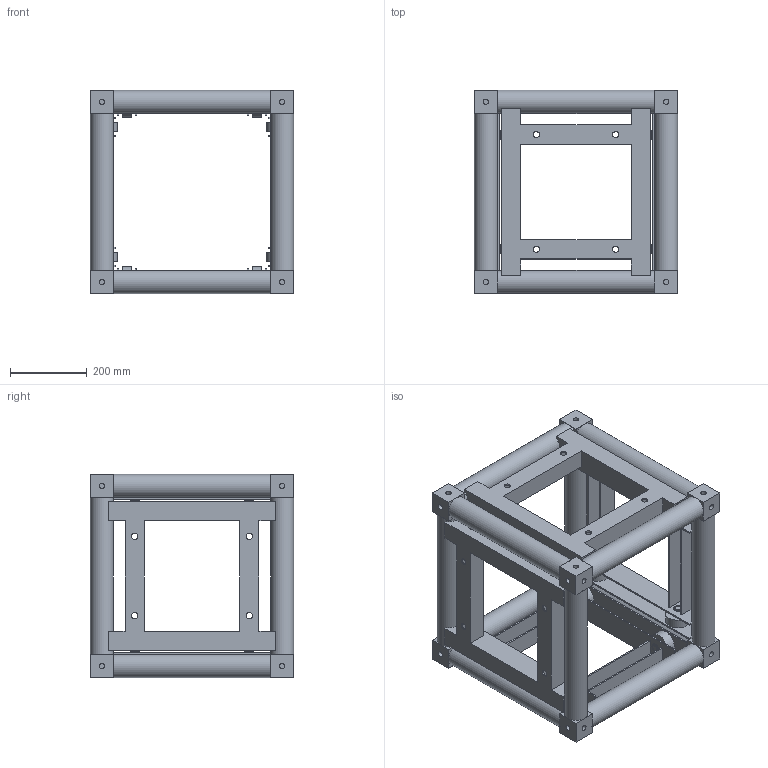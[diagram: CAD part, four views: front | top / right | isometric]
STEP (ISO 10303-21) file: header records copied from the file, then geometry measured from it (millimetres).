
FILE_DESCRIPTION(/* description */ (''),/* implementation_level */ '2;1');
FILE_NAME(/* name */ 'M:\Symbolen_NIEUW\STP\Sleeveblocks\111820021.stp',/* time_stamp */ '2015-06-01T14:25:38+02:00',/* author */ ('Stephan'),/* organization */ (''),/* preprocessor_version */ 'ST-DEVELOPER v15.6',/* originating_system */ 'Autodesk Inventor 2015',/* authorisation */ '');
FILE_SCHEMA (('AUTOMOTIVE_DESIGN { 1 0 10303 214 3 1 1 }'));
Length unit declared in the file: millimetre
Products named in the file (1): 160024346
Bounding box: 530 x 530 x 530 mm (x, y, z)
Volume: 20581107.5 mm3; surface area: 3191927.7 mm2
Topology: 17 solids, 49 shells, 1104 faces, 2456 edges, 1592 vertices
Faces by surface type: plane 596, cylinder 380, cone 128
Full cylindrical faces by diameter (mm): 13.835 x48, 16 x64, 16.1 x32, 16.2 x32, 16.5 x16, 22 x32, 22.1 x32, 23.691 x32, 30 x32, 34.5 x32, 60 x12, 65 x16
Entity records: 28588 total; most frequent: DIRECTION 5034, CARTESIAN_POINT 4257, ORIENTED_EDGE 3504, AXIS2_PLACEMENT_3D 2177, EDGE_LOOP 2024, EDGE_CURVE 1752, VERTEX_POINT 1400, STYLED_ITEM 1121
